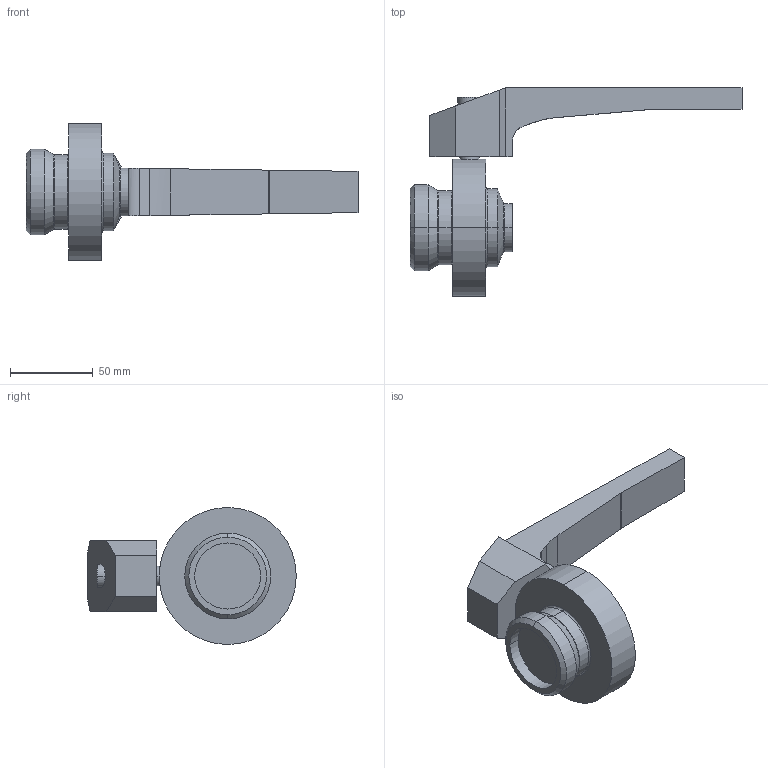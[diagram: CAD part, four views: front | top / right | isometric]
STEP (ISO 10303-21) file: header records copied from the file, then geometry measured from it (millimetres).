
FILE_DESCRIPTION(('OneSpaceDesigner STEP Export'),'2;1');
FILE_NAME('SV1-25-H-1S-2G.stp','2011-02-23T11:24:45',(''),(''),'OneSpace Designer STEP processor for AP214 (Solid Model)','OneSpace Modeling 15.00B 25-Jun-2007 (C) CoCreate Software GmbH','');
FILE_SCHEMA(('AUTOMOTIVE_DESIGN { 1 0 10303 214 1 1 1 1 }'));
Length unit declared in the file: millimetre
Products named in the file (4): Handhebel-SV; SV1-25-1S-2G; SV1-25-H-1S-2G; SV1-25-H-1S-2G.stp
Assembly tree (3 placements, depth 3):
  SV1-25-H-1S-2G.stp
    SV1-25-H-1S-2G
      SV1-25-1S-2G
      Handhebel-SV
Bounding box: 201 x 126.24 x 83 mm (x, y, z)
Volume: 290759.9 mm3; surface area: 44456.1 mm2
Topology: 2 solids, 2 shells, 60 faces, 131 edges, 81 vertices
Faces by surface type: plane 25, cylinder 21, torus 8, cone 6
Entity records: 1939 total; most frequent: CARTESIAN_POINT 634, ORIENTED_EDGE 262, DIRECTION 238, EDGE_CURVE 131, AXIS2_PLACEMENT_3D 84, VERTEX_POINT 81, VECTOR 70, LINE 70
